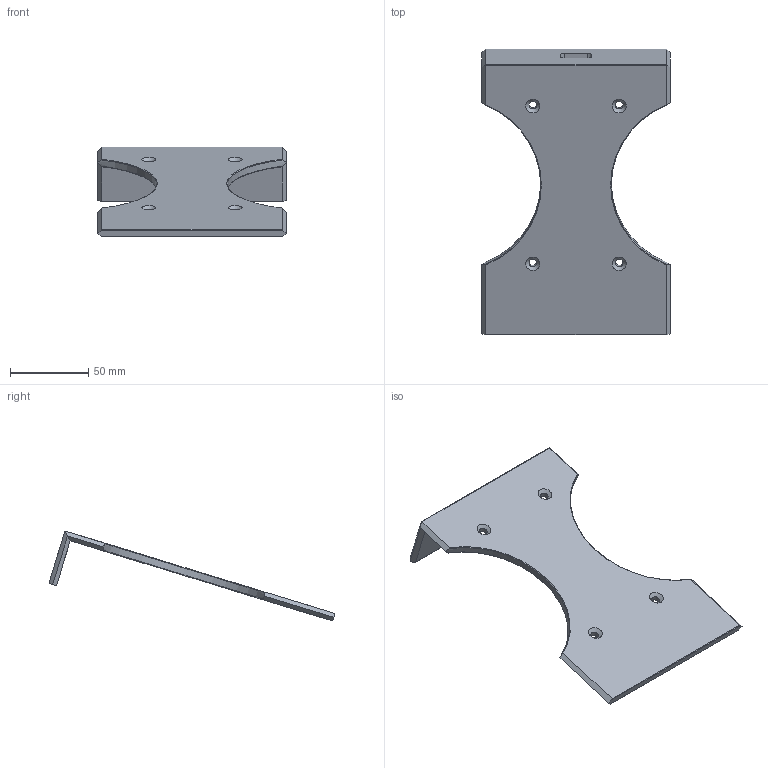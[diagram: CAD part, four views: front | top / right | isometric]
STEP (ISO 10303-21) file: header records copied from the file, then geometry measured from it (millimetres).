
FILE_DESCRIPTION(/* description */ ('STEP AP242','CAx-IF Rec.Pracs.---Representation and Presentation of Product Manufacturing Information (PMI)---4.0---2014-10-13','CAx-IF Rec.Pracs.---3D Tessellated Geometry---0.4---2014-09-14','2;1'),/* implementation_level */ '2;1');
FILE_NAME(/* name */ '6800c83092992773098ab6e0',/* time_stamp */ '2025-04-17T09:21:53Z',/* author */ (''),/* organization */ (''),/* preprocessor_version */ 'ST-DEVELOPER v20',/* originating_system */ 'ONSHAPE BY PTC INC, 1.196',/* authorisation */ ' ');
FILE_SCHEMA (('AP242_MANAGED_MODEL_BASED_3D_ENGINEERING_MIM_LF { 1 0 10303 442 1 1 4 }'));
Length unit declared in the file: metre
Products named in the file (1): St?ed
Bounding box: 120 x 182.17 x 57.21 mm (x, y, z)
Volume: 93744.7 mm3; surface area: 41412.5 mm2
Topology: 1 solids, 1 shells, 45 faces, 121 edges, 78 vertices
Faces by surface type: plane 22, cylinder 15, cone 4, torus 4
Full cylindrical faces by diameter (mm): 5 x4
Entity records: 1437 total; most frequent: CARTESIAN_POINT 269, DIRECTION 245, ORIENTED_EDGE 226, EDGE_CURVE 113, AXIS2_PLACEMENT_3D 94, VERTEX_POINT 78, EDGE_LOOP 63, FACE_BOUND 63
